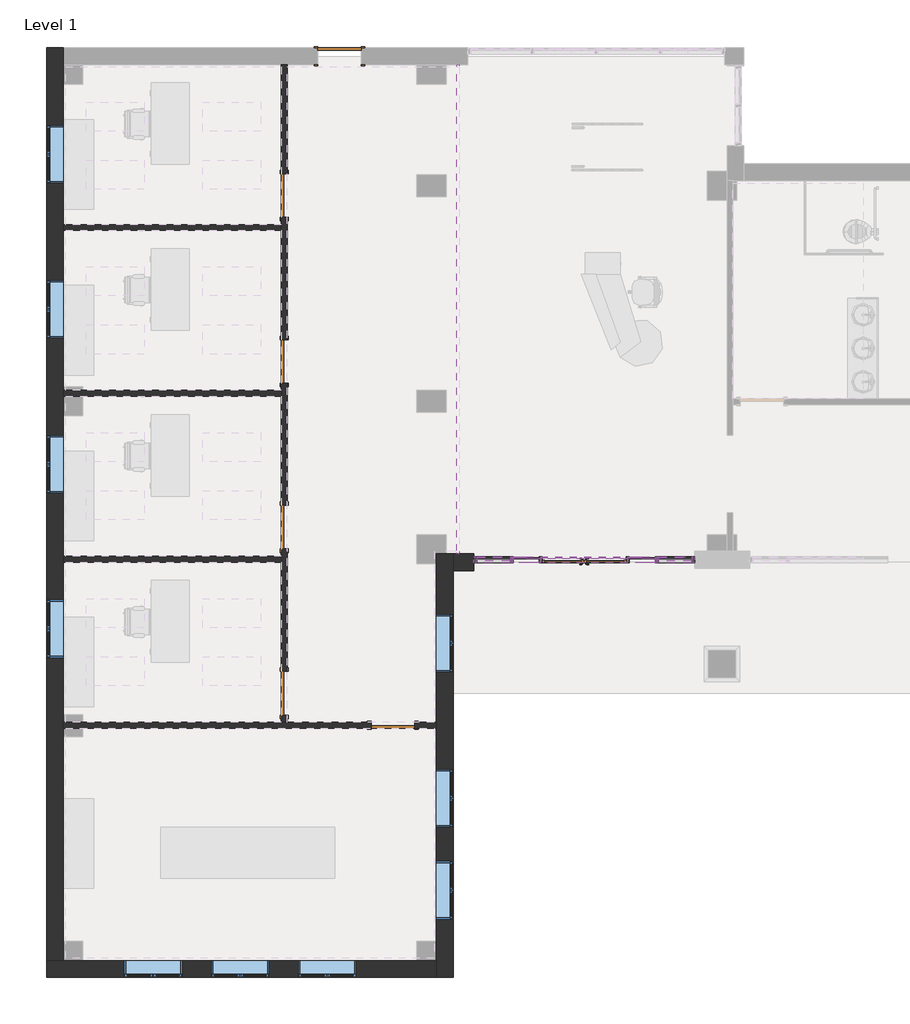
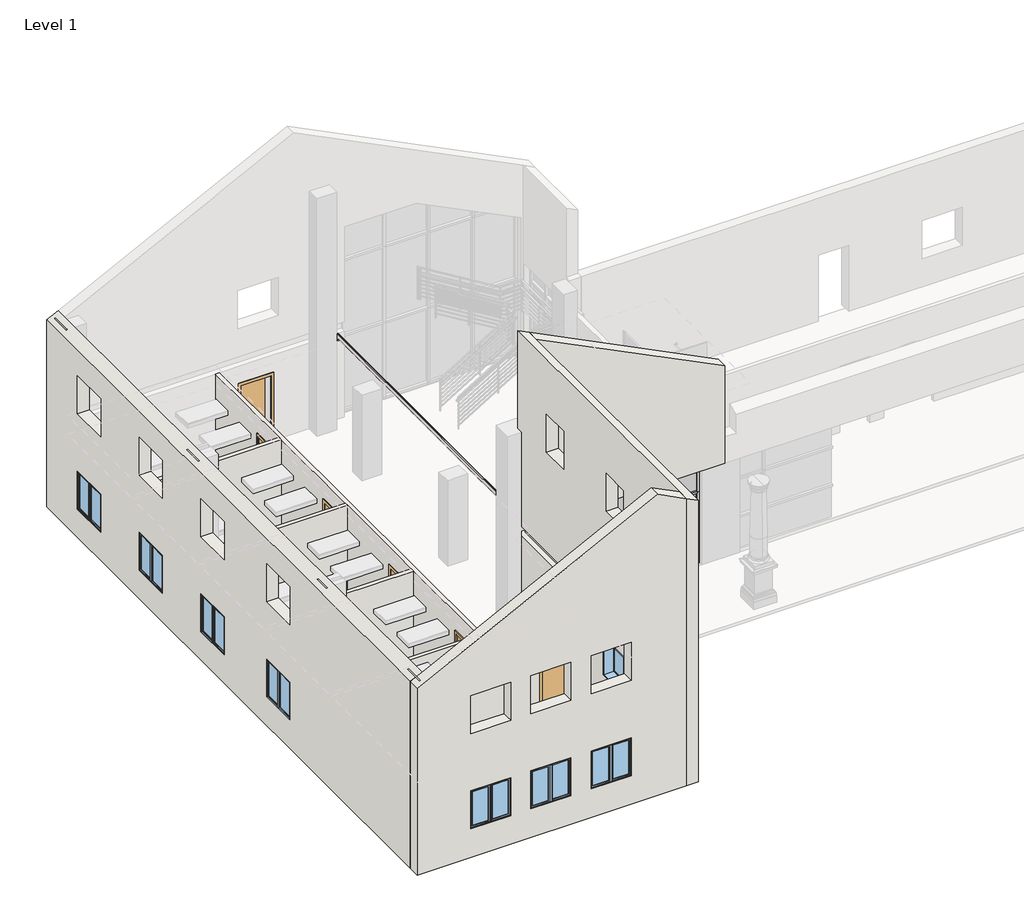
# One storey, part 1 of 8: 28 members, 10 walls, 10 windows, 9 plates, 7 doors.
"""IFC4 building model written with IfcOpenShell, lengths in millimetres."""

from ifc_helpers import new_model, si_unit, origin, origin_with_axes, place, context, project, spatial, polyline, outline, extrude, faceted_brep, transform, mapped, element, save
from components import curtain_wall_store_front_dbl_store_front_double_door_b1cda55e, door_cc5399a4, door_eb9f8b14, member_a715cb85, member_2b49869a, member_c7c5a8a0, member_f3028526, member_75074519, member_c4de40ee, member_2fae0574, member_47bfaf8a, member_13dc6413, member_4ab4c2f5, member_b5e65c95, member_b3f2e294, member_d60e8053, member_3ca69e07, member_338de68b, system_panel_glazed_53b4157c, system_panel_glazed_7b5ce646, system_panel_glazed_23a32a5b, system_panel_glazed_4b03a3f1, system_panel_glazed_2f00aa6c, system_panel_glazed_88a41a63, system_panel_solid_52285aff, system_panel_solid_6039f36e, window_75435c65

model = new_model("IFC4")

# Units and contexts
model_context = context("Model", 3, world=origin())
ifc_project = project(units=[si_unit("LENGTHUNIT", "METRE", prefix="MILLI")], contexts=[model_context])

# Site, building, storey
site = spatial("IfcSite", under=ifc_project)
building = spatial("IfcBuilding", under=site)
storey = spatial("IfcBuildingStorey", under=building, Name="Level 1", Elevation=0.0)

# Doors
placement = place(None, origin())
curtain_wall_store_front_dbl_store_front_double_door_shape = curtain_wall_store_front_dbl_store_front_double_door_b1cda55e(model_context)
element("IfcDoor", 1, ObjectType="Curtain Wall-Store Front-Dbl : Store Front Double Door", at=placement, inside=storey, context=model_context, shape_type="MappedRepresentation", body=[
    mapped(curtain_wall_store_front_dbl_store_front_double_door_shape, transform((-2655.3516552, 175.3980424, 0.0), x_axis=(1.0, 0.0, 0.0), y_axis=(0.0, 1.0, 0.0), z_axis=(0.0, 0.0, 1.0))),
])
door_shape = door_cc5399a4(model_context)
element("IfcDoor", 2, ObjectType="Single-Flush : 36\" x 84\"", at=placement, inside=storey, context=model_context, shape_type="MappedRepresentation", body=[
    mapped(door_shape, transform((-7789.3266552, 10744.9730424, 0.0), x_axis=(-1.0, 0.0, 0.0), y_axis=(0.0, -1.0, 0.0), z_axis=(0.0, 0.0, 1.0))),
])
door_2_shape = door_eb9f8b14(model_context)
element("IfcDoor", 3, ObjectType="Single-Flush : 36\" x 84\"", at=placement, inside=storey, context=model_context, shape_type="MappedRepresentation", body=[
    mapped(door_2_shape, transform((-6668.5516552, -3294.8769576, 0.0), x_axis=(1.0, 0.0, 0.0), y_axis=(0.0, 1.0, 0.0), z_axis=(0.0, 0.0, 1.0))),
])
element("IfcDoor", 4, ObjectType="Single-Flush : 36\" x 84\"", at=placement, inside=storey, context=model_context, shape_type="MappedRepresentation", body=[
    mapped(door_2_shape, transform((-8949.7891552, -2623.3644576, 0.0), x_axis=(0.0, -1.0, 0.0), y_axis=(1.0, 0.0, 0.0), z_axis=(0.0, 0.0, 1.0))),
])
element("IfcDoor", 5, ObjectType="Single-Flush : 36\" x 84\"", at=placement, inside=storey, context=model_context, shape_type="MappedRepresentation", body=[
    mapped(door_2_shape, transform((-8949.7891552, 862.7855424, 0.0), x_axis=(0.0, -1.0, 0.0), y_axis=(1.0, 0.0, 0.0), z_axis=(0.0, 0.0, 1.0))),
])
element("IfcDoor", 6, ObjectType="Single-Flush : 36\" x 84\"", at=placement, inside=storey, context=model_context, shape_type="MappedRepresentation", body=[
    mapped(door_2_shape, transform((-8949.7891552, 4339.4105424, 0.0), x_axis=(0.0, -1.0, 0.0), y_axis=(1.0, 0.0, 0.0), z_axis=(0.0, 0.0, 1.0))),
])
element("IfcDoor", 7, ObjectType="Single-Flush : 36\" x 84\"", at=placement, inside=storey, context=model_context, shape_type="MappedRepresentation", body=[
    mapped(door_2_shape, transform((-8949.7891552, 7820.7980424, 0.0), x_axis=(0.0, -1.0, 0.0), y_axis=(1.0, 0.0, 0.0), z_axis=(0.0, 0.0, 1.0))),
])

# Members
member_shape = member_a715cb85(model_context)
element("IfcMember", 8, ObjectType="Rectangular Mullion : 2.5\" x 5\" Rectangular", at=placement, inside=storey, context=model_context, shape_type="MappedRepresentation", body=[
    mapped(member_shape, transform((-4179.3516552, 175.3980424, 0.0), x_axis=(1.0, 0.0, 0.0), y_axis=(0.0, -1.0, 0.0), z_axis=(0.0, 0.0, -1.0))),
])
element("IfcMember", 9, ObjectType="Rectangular Mullion : 2.5\" x 5\" Rectangular", at=placement, inside=storey, context=model_context, shape_type="MappedRepresentation", body=[
    mapped(member_shape, transform((-1131.3516552, 175.3980424, 0.0), x_axis=(1.0, 0.0, 0.0), y_axis=(0.0, -1.0, 0.0), z_axis=(0.0, 0.0, -1.0))),
])
element("IfcMember", 10, ObjectType="Rectangular Mullion : 2.5\" x 5\" Rectangular", at=placement, inside=storey, context=model_context, shape_type="MappedRepresentation", body=[
    mapped(member_shape, transform((-369.3516552, 175.3980424, 0.0), x_axis=(1.0, 0.0, 0.0), y_axis=(0.0, -1.0, 0.0), z_axis=(0.0, 0.0, -1.0))),
])
member_2_shape = member_2b49869a(model_context)
element("IfcMember", 11, ObjectType="Rectangular Mullion : 2.5\" x 5\" Rectangular", at=placement, inside=storey, context=model_context, shape_type="MappedRepresentation", body=[
    mapped(member_2_shape, transform((-4179.3516552, 175.3980424, 1066.8), x_axis=(1.0, 0.0, 0.0), y_axis=(0.0, -1.0, 0.0), z_axis=(0.0, 0.0, -1.0))),
])
element("IfcMember", 12, ObjectType="Rectangular Mullion : 2.5\" x 5\" Rectangular", at=placement, inside=storey, context=model_context, shape_type="MappedRepresentation", body=[
    mapped(member_2_shape, transform((-1131.3516552, 175.3980424, 1066.8), x_axis=(1.0, 0.0, 0.0), y_axis=(0.0, -1.0, 0.0), z_axis=(0.0, 0.0, -1.0))),
])
element("IfcMember", 13, ObjectType="Rectangular Mullion : 2.5\" x 5\" Rectangular", at=placement, inside=storey, context=model_context, shape_type="MappedRepresentation", body=[
    mapped(member_2_shape, transform((-369.3516552, 175.3980424, 1066.8), x_axis=(1.0, 0.0, 0.0), y_axis=(0.0, -1.0, 0.0), z_axis=(0.0, 0.0, -1.0))),
])
member_3_shape = member_c7c5a8a0(model_context)
element("IfcMember", 14, ObjectType="Rectangular Mullion : 2.5\" x 5\" Rectangular", at=placement, inside=storey, context=model_context, shape_type="MappedRepresentation", body=[
    mapped(member_3_shape, transform((-401.1016552, 175.3980424, 2286.0), x_axis=(0.0, 0.0, 1.0), y_axis=(0.0, -1.0, 0.0), z_axis=(1.0, 0.0, 0.0))),
])
element("IfcMember", 15, ObjectType="Rectangular Mullion : 2.5\" x 5\" Rectangular", at=placement, inside=storey, context=model_context, shape_type="MappedRepresentation", body=[
    mapped(member_3_shape, transform((-401.1016552, 175.3980424, 1066.8), x_axis=(0.0, 0.0, 1.0), y_axis=(0.0, -1.0, 0.0), z_axis=(1.0, 0.0, 0.0))),
])
member_4_shape = member_f3028526(model_context)
element("IfcMember", 16, ObjectType="Rectangular Mullion : 2.5\" x 5\" Rectangular", at=placement, inside=storey, context=model_context, shape_type="MappedRepresentation", body=[
    mapped(member_4_shape, transform((-4211.1016552, 175.3980424, 2286.0), x_axis=(0.0, 0.0, 1.0), y_axis=(0.0, -1.0, 0.0), z_axis=(1.0, 0.0, 0.0))),
])
element("IfcMember", 17, ObjectType="Rectangular Mullion : 2.5\" x 5\" Rectangular", at=placement, inside=storey, context=model_context, shape_type="MappedRepresentation", body=[
    mapped(member_4_shape, transform((-4211.1016552, 175.3980424, 1066.8), x_axis=(0.0, 0.0, 1.0), y_axis=(0.0, -1.0, 0.0), z_axis=(1.0, 0.0, 0.0))),
])
member_5_shape = member_75074519(model_context)
element("IfcMember", 18, ObjectType="Rectangular Mullion : 2.5\" x 5\" Rectangular", at=placement, inside=storey, context=model_context, shape_type="MappedRepresentation", body=[
    mapped(member_5_shape, transform((-4968.3391552, 175.3980424, 2286.0), x_axis=(-1.0, 0.0, 0.0), y_axis=(0.0, -1.0, 0.0), z_axis=(0.0, 0.0, 1.0))),
])
member_6_shape = member_c4de40ee(model_context)
element("IfcMember", 19, ObjectType="Rectangular Mullion : 2.5\" x 5\" Rectangular", at=placement, inside=storey, context=model_context, shape_type="MappedRepresentation", body=[
    mapped(member_6_shape, transform((-4968.3391552, 175.3980424, 1066.8), x_axis=(-1.0, 0.0, 0.0), y_axis=(0.0, -1.0, 0.0), z_axis=(0.0, 0.0, 1.0))),
])
member_7_shape = member_2fae0574(model_context)
element("IfcMember", 20, ObjectType="Rectangular Mullion : 2.5\" x 5\" Rectangular", at=placement, inside=storey, context=model_context, shape_type="MappedRepresentation", body=[
    mapped(member_7_shape, transform((-1740.9516552, 175.3980424, 3060.0), x_axis=(0.0, 0.0, 1.0), y_axis=(0.0, -1.0, 0.0), z_axis=(1.0, 0.0, 0.0))),
])
member_8_shape = member_47bfaf8a(model_context)
element("IfcMember", 21, ObjectType="Rectangular Mullion : 2.5\" x 5\" Rectangular", at=placement, inside=storey, context=model_context, shape_type="MappedRepresentation", body=[
    mapped(member_8_shape, transform((-3569.7516552, 175.3980424, 3060.0), x_axis=(0.0, 0.0, 1.0), y_axis=(0.0, -1.0, 0.0), z_axis=(1.0, 0.0, 0.0))),
])
element("IfcMember", 22, ObjectType="Rectangular Mullion : 2.5\" x 5\" Rectangular", at=placement, inside=storey, context=model_context, shape_type="MappedRepresentation", body=[
    mapped(member_8_shape, transform((-1131.3516552, 175.3980424, 3060.0), x_axis=(0.0, 0.0, 1.0), y_axis=(0.0, -1.0, 0.0), z_axis=(1.0, 0.0, 0.0))),
])
member_9_shape = member_13dc6413(model_context)
element("IfcMember", 23, ObjectType="Rectangular Mullion : 2.5\" x 5\" Rectangular", at=placement, inside=storey, context=model_context, shape_type="MappedRepresentation", body=[
    mapped(member_9_shape, transform((-337.6016552, 175.3980424, 3060.0), x_axis=(0.0, 0.0, 1.0), y_axis=(0.0, -1.0, 0.0), z_axis=(1.0, 0.0, 0.0))),
])
member_10_shape = member_4ab4c2f5(model_context)
element("IfcMember", 24, ObjectType="Rectangular Mullion : 2.5\" x 5\" Rectangular", at=placement, inside=storey, context=model_context, shape_type="MappedRepresentation", body=[
    mapped(member_10_shape, transform((-4179.3516552, 175.3980424, 3060.0), x_axis=(0.0, 0.0, 1.0), y_axis=(0.0, -1.0, 0.0), z_axis=(1.0, 0.0, 0.0))),
])
element("IfcMember", 25, ObjectType="Rectangular Mullion : 2.5\" x 5\" Rectangular", at=placement, inside=storey, context=model_context, shape_type="MappedRepresentation", body=[
    mapped(member_shape, transform((-3569.7516552, 175.3980424, 0.0), x_axis=(1.0, 0.0, 0.0), y_axis=(0.0, -1.0, 0.0), z_axis=(0.0, 0.0, -1.0))),
])
element("IfcMember", 26, ObjectType="Rectangular Mullion : 2.5\" x 5\" Rectangular", at=placement, inside=storey, context=model_context, shape_type="MappedRepresentation", body=[
    mapped(member_shape, transform((-1740.9516552, 175.3980424, 0.0), x_axis=(1.0, 0.0, 0.0), y_axis=(0.0, -1.0, 0.0), z_axis=(0.0, 0.0, -1.0))),
])
member_11_shape = member_b5e65c95(model_context)
element("IfcMember", 27, ObjectType="Rectangular Mullion : 2.5\" x 5\" Rectangular", at=placement, inside=storey, context=model_context, shape_type="MappedRepresentation", body=[
    mapped(member_11_shape, transform((-3569.7516552, 175.3980424, 2286.0), x_axis=(0.0, 0.0, 1.0), y_axis=(0.0, -1.0, 0.0), z_axis=(1.0, 0.0, 0.0))),
])
member_12_shape = member_b3f2e294(model_context)
element("IfcMember", 28, ObjectType="Rectangular Mullion : 2.5\" x 5\" Rectangular", at=placement, inside=storey, context=model_context, shape_type="MappedRepresentation", body=[
    mapped(member_12_shape, transform((-3569.7516552, 175.3980424, 1066.8), x_axis=(1.0, 0.0, 0.0), y_axis=(0.0, -1.0, 0.0), z_axis=(0.0, 0.0, -1.0))),
])
element("IfcMember", 29, ObjectType="Rectangular Mullion : 2.5\" x 5\" Rectangular", at=placement, inside=storey, context=model_context, shape_type="MappedRepresentation", body=[
    mapped(member_12_shape, transform((-1740.9516552, 175.3980424, 1066.8), x_axis=(1.0, 0.0, 0.0), y_axis=(0.0, -1.0, 0.0), z_axis=(0.0, 0.0, -1.0))),
])
element("IfcMember", 30, ObjectType="Rectangular Mullion : 2.5\" x 5\" Rectangular", at=placement, inside=storey, context=model_context, shape_type="MappedRepresentation", body=[
    mapped(member_11_shape, transform((-1163.1016552, 175.3980424, 2286.0), x_axis=(0.0, 0.0, 1.0), y_axis=(0.0, -1.0, 0.0), z_axis=(1.0, 0.0, 0.0))),
])
member_13_shape = member_d60e8053(model_context)
element("IfcMember", 31, ObjectType="Rectangular Mullion : 2.5\" x 5\" Rectangular", at=placement, inside=storey, context=model_context, shape_type="MappedRepresentation", body=[
    mapped(member_13_shape, transform((-1740.9516552, 175.3980424, 2286.0), x_axis=(0.0, 0.0, 1.0), y_axis=(0.0, -1.0, 0.0), z_axis=(1.0, 0.0, 0.0))),
])
member_14_shape = member_3ca69e07(model_context)
element("IfcMember", 32, ObjectType="Rectangular Mullion : 2.5\" x 5\" Rectangular", at=placement, inside=storey, context=model_context, shape_type="MappedRepresentation", body=[
    mapped(member_14_shape, transform((-4179.3516552, 175.3980424, 2286.0), x_axis=(1.0, 0.0, 0.0), y_axis=(0.0, -1.0, 0.0), z_axis=(0.0, 0.0, -1.0))),
])
element("IfcMember", 33, ObjectType="Rectangular Mullion : 2.5\" x 5\" Rectangular", at=placement, inside=storey, context=model_context, shape_type="MappedRepresentation", body=[
    mapped(member_14_shape, transform((-1131.3516552, 175.3980424, 2286.0), x_axis=(1.0, 0.0, 0.0), y_axis=(0.0, -1.0, 0.0), z_axis=(0.0, 0.0, -1.0))),
])
element("IfcMember", 34, ObjectType="Rectangular Mullion : 2.5\" x 5\" Rectangular", at=placement, inside=storey, context=model_context, shape_type="MappedRepresentation", body=[
    mapped(member_14_shape, transform((-369.3516552, 175.3980424, 2286.0), x_axis=(1.0, 0.0, 0.0), y_axis=(0.0, -1.0, 0.0), z_axis=(0.0, 0.0, -1.0))),
])
member_15_shape = member_338de68b(model_context)
element("IfcMember", 35, ObjectType="Rectangular Mullion : 2.5\" x 5\" Rectangular", at=placement, inside=storey, context=model_context, shape_type="MappedRepresentation", body=[
    mapped(member_15_shape, transform((-4968.3391552, 175.3980424, 2996.5), x_axis=(-1.0, 0.0, 0.0), y_axis=(0.0, -1.0, 0.0), z_axis=(0.0, 0.0, 1.0))),
])

# Plates
system_panel_glazed_shape = system_panel_glazed_53b4157c(model_context)
element("IfcPlate", 36, ObjectType="System Panel : Glazed", at=placement, inside=storey, context=model_context, shape_type="MappedRepresentation", body=[
    mapped(system_panel_glazed_shape, transform((-750.3516552, 175.3980424, 0.0), x_axis=(1.0, 0.0, 0.0), y_axis=(0.0, 1.0, 0.0), z_axis=(0.0, 0.0, 1.0))),
])
system_panel_glazed_2_shape = system_panel_glazed_7b5ce646(model_context)
element("IfcPlate", 37, ObjectType="System Panel : Glazed", at=placement, inside=storey, context=model_context, shape_type="MappedRepresentation", body=[
    mapped(system_panel_glazed_2_shape, transform((-750.3516552, 175.3980424, 1098.55), x_axis=(1.0, 0.0, 0.0), y_axis=(0.0, 1.0, 0.0), z_axis=(0.0, 0.0, 1.0))),
])
system_panel_glazed_3_shape = system_panel_glazed_23a32a5b(model_context)
element("IfcPlate", 38, ObjectType="System Panel : Glazed", at=placement, inside=storey, context=model_context, shape_type="MappedRepresentation", body=[
    mapped(system_panel_glazed_3_shape, transform((-4557.9704052, 175.3980424, 0.0), x_axis=(1.0, 0.0, 0.0), y_axis=(0.0, 1.0, 0.0), z_axis=(0.0, 0.0, 1.0))),
])
system_panel_glazed_4_shape = system_panel_glazed_4b03a3f1(model_context)
element("IfcPlate", 39, ObjectType="System Panel : Glazed", at=placement, inside=storey, context=model_context, shape_type="MappedRepresentation", body=[
    mapped(system_panel_glazed_4_shape, transform((-4557.9704052, 175.3980424, 1098.55), x_axis=(1.0, 0.0, 0.0), y_axis=(0.0, 1.0, 0.0), z_axis=(0.0, 0.0, 1.0))),
])
system_panel_glazed_5_shape = system_panel_glazed_2f00aa6c(model_context)
element("IfcPlate", 40, ObjectType="System Panel : Glazed", at=placement, inside=storey, context=model_context, shape_type="MappedRepresentation", body=[
    mapped(system_panel_glazed_5_shape, transform((-3874.5516552, 175.3980424, 0.0), x_axis=(1.0, 0.0, 0.0), y_axis=(0.0, 1.0, 0.0), z_axis=(0.0, 0.0, 1.0))),
])
element("IfcPlate", 41, ObjectType="System Panel : Glazed", at=placement, inside=storey, context=model_context, shape_type="MappedRepresentation", body=[
    mapped(system_panel_glazed_5_shape, transform((-1436.1516552, 175.3980424, 0.0), x_axis=(1.0, 0.0, 0.0), y_axis=(0.0, 1.0, 0.0), z_axis=(0.0, 0.0, 1.0))),
])
system_panel_glazed_6_shape = system_panel_glazed_88a41a63(model_context)
element("IfcPlate", 42, ObjectType="System Panel : Glazed", at=placement, inside=storey, context=model_context, shape_type="MappedRepresentation", body=[
    mapped(system_panel_glazed_6_shape, transform((-2655.3516552, 175.3980424, 2317.75), x_axis=(1.0, 0.0, 0.0), y_axis=(0.0, 1.0, 0.0), z_axis=(0.0, 0.0, 1.0))),
])
system_panel_solid_shape = system_panel_solid_52285aff(model_context)
element("IfcPlate", 43, ObjectType="System Panel : Solid", at=placement, inside=storey, context=model_context, shape_type="MappedRepresentation", body=[
    mapped(system_panel_solid_shape, transform((-4557.9704052, 175.3980424, 2317.75), x_axis=(1.0, 0.0, 0.0), y_axis=(0.0, 1.0, 0.0), z_axis=(0.0, 0.0, 1.0))),
])
system_panel_solid_2_shape = system_panel_solid_6039f36e(model_context)
element("IfcPlate", 44, ObjectType="System Panel : Solid", at=placement, inside=storey, context=model_context, shape_type="MappedRepresentation", body=[
    mapped(system_panel_solid_2_shape, transform((-750.3516552, 175.3980424, 2317.75), x_axis=(1.0, 0.0, 0.0), y_axis=(0.0, 1.0, 0.0), z_axis=(0.0, 0.0, 1.0))),
])

# Walls
element("IfcWall", 45, ObjectType="Soffit - 1/2\" GWB & Metal Stud", at=placement, inside=storey, context=model_context, shape_type="Brep", body=[
    faceted_brep([(-5273.1391552, 10568.7605424, 2755.2), (-5273.1391552, 300.8105424, 2755.2), (-5273.1391552, 300.8105424, 2540.0), (-5273.1391552, 351.6105424, 2540.0), (-5273.1391552, 351.6105424, 2647.95), (-5273.1391552, 10517.9605424, 2647.95), (-5273.1391552, 10517.9605424, 2540.0), (-5273.1391552, 10568.7605424, 2540.0), (-5323.9391552, 10568.7605424, 2755.2), (-5323.9391552, 10568.7605424, 2540.0), (-5323.9391552, 10517.9605424, 2540.0), (-5323.9391552, 10517.9605424, 2647.95), (-5323.9391552, 351.6105424, 2647.95), (-5323.9391552, 351.6105424, 2540.0), (-5323.9391552, 300.8105424, 2540.0), (-5323.9391552, 300.8105424, 2755.2), (-5284.2516552, 10568.7605424, 2755.2), (-5284.2516552, 9554.527236, 2755.2), (-5284.2516552, 300.8105424, 2755.2)], [[[0, 1, 2, 3, 4, 5, 6, 7]], [[8, 9, 10, 11, 12, 13, 14, 15]], [[9, 7, 6, 10]], [[2, 14, 13, 3]], [[11, 5, 4, 12]], [[12, 4, 3, 13]], [[5, 11, 10, 6]], [[1, 0, 16, 17, 18]], [[0, 7, 9, 8, 16]], [[2, 1, 18, 15, 14]], [[16, 8, 15, 18, 17]]]),
])
element("IfcWall", 46, ObjectType="Exterior - Brick on Mtl. Stud", at=placement, inside=storey, context=model_context, shape_type="Brep", body=[
    faceted_brep([(-5754.1516552, 300.8105424, 0.0), (-5754.1516552, 97.6105424, 0.0), (-5754.1516552, -3232.9644576, 0.0), (-5754.1516552, -3356.7894576, 0.0), (-5754.1516552, -7824.0144576, 0.0), (-5754.1516552, -8233.5894576, 0.0), (-5754.1516552, -8586.0144576, 0.0), (-5754.1516552, -8586.0144576, 9230.55), (-5754.1516552, -8233.5894576, 9230.55), (-5754.1516552, 300.8105424, 9230.55), (-5754.1516552, 300.8105424, 6100.0), (-5754.1516552, 300.8105424, 3060.0), (-5754.1516552, -3232.9644576, 3060.0), (-5754.1516552, -3356.7894576, 3060.0), (-5754.1516552, -8233.5894576, 3060.0), (-5754.1516552, -8398.6894576, 3060.0), (-5754.1516552, -8398.6894576, 2755.2), (-5754.1516552, -8233.5894576, 2755.2), (-5754.1516552, -3356.7894576, 2755.2), (-5754.1516552, -3232.9644576, 2755.2), (-5754.1516552, 300.8105424, 2755.2), (-5754.1516552, -7366.8144576, 2133.6), (-5754.1516552, -7366.8144576, 914.4), (-5754.1516552, -6147.6144576, 914.4), (-5754.1516552, -6147.6144576, 2133.6), (-5754.1516552, -5436.4144576, 2133.6), (-5754.1516552, -5436.4144576, 914.4), (-5754.1516552, -4217.2144576, 914.4), (-5754.1516552, -4217.2144576, 2133.6), (-5754.1516552, -2185.2144576, 2133.6), (-5754.1516552, -2185.2144576, 914.4), (-5754.1516552, -966.0144576, 914.4), (-5754.1516552, -966.0144576, 2133.6), (-5754.1516552, -2134.4144576, 7471.6), (-5754.1516552, -2134.4144576, 6252.4), (-5754.1516552, -1220.0144576, 6252.4), (-5754.1516552, -1220.0144576, 7471.6), (-5754.1516552, -5268.1394576, 7471.6), (-5754.1516552, -5268.1394576, 6252.4), (-5754.1516552, -4353.7394576, 6252.4), (-5754.1516552, -4353.7394576, 7471.6), (-5754.1516552, -7166.7894576, 7471.6), (-5754.1516552, -7166.7894576, 6252.4), (-5754.1516552, -6252.3894576, 6252.4), (-5754.1516552, -6252.3894576, 7471.6), (-5754.1516552, -5420.5394576, 5193.6), (-5754.1516552, -5420.5394576, 3974.4), (-5754.1516552, -4201.3394576, 3974.4), (-5754.1516552, -4201.3394576, 5193.6), (-5754.1516552, -7319.1894576, 5193.6), (-5754.1516552, -7319.1894576, 3974.4), (-5754.1516552, -6099.9894576, 3974.4), (-5754.1516552, -6099.9894576, 5193.6), (-5401.7266552, -8586.0144576, 0.0), (-5401.7266552, -51.6144576, 0.0), (-5401.7266552, 300.8105424, 0.0), (-5401.7266552, 300.8105424, 2755.2), (-5401.7266552, 175.3980424, 2755.2), (-5401.7266552, 175.3980424, 3060.0), (-5401.7266552, 300.8105424, 3060.0), (-5401.7266552, 300.8105424, 9054.3375), (-5401.7266552, -51.6144576, 9054.3375), (-5401.7266552, -8586.0144576, 9054.3375), (-5401.7266552, -7366.8144576, 914.4), (-5401.7266552, -7366.8144576, 2133.6), (-5401.7266552, -6147.6144576, 2133.6), (-5401.7266552, -6147.6144576, 914.4), (-5401.7266552, -5436.4144576, 914.4), (-5401.7266552, -5436.4144576, 2133.6), (-5401.7266552, -4217.2144576, 2133.6), (-5401.7266552, -4217.2144576, 914.4), (-5401.7266552, -2185.2144576, 914.4), (-5401.7266552, -2185.2144576, 2133.6), (-5401.7266552, -966.0144576, 2133.6), (-5401.7266552, -966.0144576, 914.4), (-5401.7266552, -2134.4144576, 6252.4), (-5401.7266552, -2134.4144576, 7471.6), (-5401.7266552, -1220.0144576, 7471.6), (-5401.7266552, -1220.0144576, 6252.4), (-5401.7266552, -5268.1394576, 6252.4), (-5401.7266552, -5268.1394576, 7471.6), (-5401.7266552, -4353.7394576, 7471.6), (-5401.7266552, -4353.7394576, 6252.4), (-5401.7266552, -7166.7894576, 6252.4), (-5401.7266552, -7166.7894576, 7471.6), (-5401.7266552, -6252.3894576, 7471.6), (-5401.7266552, -6252.3894576, 6252.4), (-5401.7266552, -5420.5394576, 3974.4), (-5401.7266552, -5420.5394576, 5193.6), (-5401.7266552, -4201.3394576, 5193.6), (-5401.7266552, -4201.3394576, 3974.4), (-5401.7266552, -7319.1894576, 3974.4), (-5401.7266552, -7319.1894576, 5193.6), (-5401.7266552, -6099.9894576, 5193.6), (-5401.7266552, -6099.9894576, 3974.4), (-5554.1266552, 300.8105424, 0.0), (-5589.0516552, -8398.6894576, 2755.2), (-5589.0516552, 175.3980424, 2755.2), (-5589.0516552, 175.3980424, 3060.0), (-5589.0516552, -8398.6894576, 3060.0)], [[[0, 1, 2, 3, 4, 5, 6, 7, 8, 9, 10, 11, 12, 13, 14, 15, 16, 17, 18, 19, 20], [21, 22, 23, 24], [25, 26, 27, 28], [29, 30, 31, 32], [33, 34, 35, 36], [37, 38, 39, 40], [41, 42, 43, 44], [45, 46, 47, 48], [49, 50, 51, 52]], [[53, 54, 55, 56, 57, 58, 59, 60, 61, 62], [63, 64, 65, 66], [67, 68, 69, 70], [71, 72, 73, 74], [75, 76, 77, 78], [79, 80, 81, 82], [83, 84, 85, 86], [87, 88, 89, 90], [91, 92, 93, 94]], [[6, 5, 4, 3, 2, 1, 0, 95, 55, 54, 53]], [[22, 21, 64, 63]], [[23, 22, 63, 66]], [[24, 23, 66, 65]], [[21, 24, 65, 64]], [[26, 25, 68, 67]], [[27, 26, 67, 70]], [[28, 27, 70, 69]], [[25, 28, 69, 68]], [[30, 29, 72, 71]], [[31, 30, 71, 74]], [[32, 31, 74, 73]], [[29, 32, 73, 72]], [[9, 8, 7, 62, 61, 60]], [[34, 33, 76, 75]], [[35, 34, 75, 78]], [[36, 35, 78, 77]], [[33, 36, 77, 76]], [[38, 37, 80, 79]], [[39, 38, 79, 82]], [[40, 39, 82, 81]], [[37, 40, 81, 80]], [[42, 41, 84, 83]], [[43, 42, 83, 86]], [[44, 43, 86, 85]], [[41, 44, 85, 84]], [[46, 45, 88, 87]], [[47, 46, 87, 90]], [[48, 47, 90, 89]], [[45, 48, 89, 88]], [[50, 49, 92, 91]], [[51, 50, 91, 94]], [[52, 51, 94, 93]], [[49, 52, 93, 92]], [[96, 97, 57, 56, 20, 19, 18, 17, 16]], [[98, 99, 15, 14, 13, 12, 11, 59, 58]], [[97, 96, 99, 98]], [[99, 96, 16, 15]], [[9, 60, 59, 11, 10]], [[55, 95, 0, 20, 56]], [[7, 6, 53, 62]], [[97, 98, 58, 57]]]),
])
element("IfcWall", 47, ObjectType="Exterior - Brick on Mtl. Stud", at=placement, inside=storey, context=model_context, shape_type="Brep", body=[
    faceted_brep([(-5754.1516552, -8233.5894576, 0.0), (-6163.7266552, -8233.5894576, 0.0), (-13174.1266552, -8233.5894576, 0.0), (-13583.7016552, -8233.5894576, 0.0), (-13936.1266552, -8233.5894576, 0.0), (-13936.1266552, -8233.5894576, 6006.3375), (-13583.7016552, -8233.5894576, 6182.55), (-6620.9266552, -8233.5894576, 9663.9375), (-5754.1516552, -8233.5894576, 9230.55), (-5754.1516552, -8233.5894576, 6100.0), (-5754.1516552, -8233.5894576, 3060.0), (-13596.4016552, -8233.5894576, 3060.0), (-13596.4016552, -8233.5894576, 2755.2), (-5754.1516552, -8233.5894576, 2755.2), (-12310.5266552, -8233.5894576, 2133.6), (-12310.5266552, -8233.5894576, 914.4), (-11091.3266552, -8233.5894576, 914.4), (-11091.3266552, -8233.5894576, 2133.6), (-10481.7266552, -8233.5894576, 2133.6), (-10481.7266552, -8233.5894576, 914.4), (-9262.5266552, -8233.5894576, 914.4), (-9262.5266552, -8233.5894576, 2133.6), (-8652.9266552, -8233.5894576, 2133.6), (-8652.9266552, -8233.5894576, 914.4), (-7433.7266552, -8233.5894576, 914.4), (-7433.7266552, -8233.5894576, 2133.6), (-8652.9266552, -8233.5894576, 5193.6), (-8652.9266552, -8233.5894576, 3974.4), (-7433.7266552, -8233.5894576, 3974.4), (-7433.7266552, -8233.5894576, 5193.6), (-10481.7266552, -8233.5894576, 5193.6), (-10481.7266552, -8233.5894576, 3974.4), (-9262.5266552, -8233.5894576, 3974.4), (-9262.5266552, -8233.5894576, 5193.6), (-12310.5266552, -8233.5894576, 5193.6), (-12310.5266552, -8233.5894576, 3974.4), (-11091.3266552, -8233.5894576, 3974.4), (-11091.3266552, -8233.5894576, 5193.6), (-13936.1266552, -8586.0144576, 0.0), (-5754.1516552, -8586.0144576, 0.0), (-5754.1516552, -8586.0144576, 9230.55), (-6620.9266552, -8586.0144576, 9663.9375), (-13936.1266552, -8586.0144576, 6006.3375), (-12310.5266552, -8586.0144576, 914.4), (-12310.5266552, -8586.0144576, 2133.6), (-11091.3266552, -8586.0144576, 2133.6), (-11091.3266552, -8586.0144576, 914.4), (-10481.7266552, -8586.0144576, 914.4), (-10481.7266552, -8586.0144576, 2133.6), (-9262.5266552, -8586.0144576, 2133.6), (-9262.5266552, -8586.0144576, 914.4), (-8652.9266552, -8586.0144576, 914.4), (-8652.9266552, -8586.0144576, 2133.6), (-7433.7266552, -8586.0144576, 2133.6), (-7433.7266552, -8586.0144576, 914.4), (-8652.9266552, -8586.0144576, 3974.4), (-8652.9266552, -8586.0144576, 5193.6), (-7433.7266552, -8586.0144576, 5193.6), (-7433.7266552, -8586.0144576, 3974.4), (-10481.7266552, -8586.0144576, 3974.4), (-10481.7266552, -8586.0144576, 5193.6), (-9262.5266552, -8586.0144576, 5193.6), (-9262.5266552, -8586.0144576, 3974.4), (-12310.5266552, -8586.0144576, 3974.4), (-12310.5266552, -8586.0144576, 5193.6), (-11091.3266552, -8586.0144576, 5193.6), (-11091.3266552, -8586.0144576, 3974.4), (-13596.4016552, -8398.6894576, 2755.2), (-5754.1516552, -8398.6894576, 2755.2), (-5754.1516552, -8398.6894576, 3060.0), (-13596.4016552, -8398.6894576, 3060.0)], [[[0, 1, 2, 3, 4, 5, 6, 7, 8, 9, 10, 11, 12, 13], [14, 15, 16, 17], [18, 19, 20, 21], [22, 23, 24, 25], [26, 27, 28, 29], [30, 31, 32, 33], [34, 35, 36, 37]], [[38, 39, 40, 41, 42], [43, 44, 45, 46], [47, 48, 49, 50], [51, 52, 53, 54], [55, 56, 57, 58], [59, 60, 61, 62], [63, 64, 65, 66]], [[4, 3, 2, 1, 0, 39, 38]], [[15, 14, 44, 43]], [[16, 15, 43, 46]], [[17, 16, 46, 45]], [[14, 17, 45, 44]], [[19, 18, 48, 47]], [[20, 19, 47, 50]], [[21, 20, 50, 49]], [[18, 21, 49, 48]], [[23, 22, 52, 51]], [[24, 23, 51, 54]], [[25, 24, 54, 53]], [[22, 25, 53, 52]], [[8, 7, 41, 40]], [[7, 6, 5, 42, 41]], [[27, 26, 56, 55]], [[28, 27, 55, 58]], [[29, 28, 58, 57]], [[26, 29, 57, 56]], [[31, 30, 60, 59]], [[32, 31, 59, 62]], [[33, 32, 62, 61]], [[30, 33, 61, 60]], [[35, 34, 64, 63]], [[36, 35, 63, 66]], [[37, 36, 66, 65]], [[34, 37, 65, 64]], [[12, 67, 68, 13]], [[69, 70, 11, 10]], [[67, 70, 69, 68]], [[70, 67, 12, 11]], [[5, 4, 38, 42]], [[8, 40, 39, 0, 13, 68, 69, 10, 9]]]),
])
element("IfcWall", 48, ObjectType="Exterior - Brick on Mtl. Stud", at=placement, inside=storey, context=model_context, shape_type="Brep", body=[
    faceted_brep([(-13583.7016552, -8233.5894576, 0.0), (-13583.7016552, -7824.0144576, 0.0), (-13583.7016552, -3531.4144576, 0.0), (-13583.7016552, -3356.7894576, 0.0), (-13583.7016552, -3232.9644576, 0.0), (-13583.7016552, -3074.2144576, 0.0), (-13583.7016552, 124.5980424, 0.0), (-13583.7016552, 248.4230424, 0.0), (-13583.7016552, 3199.5855424, 0.0), (-13583.7016552, 3605.9855424, 0.0), (-13583.7016552, 3729.8105424, 0.0), (-13583.7016552, 3809.1855424, 0.0), (-13583.7016552, 7087.3730424, 0.0), (-13583.7016552, 7211.1980424, 0.0), (-13583.7016552, 10156.0105424, 0.0), (-13583.7016552, 10568.7605424, 0.0), (-13583.7016552, 10921.1855424, 0.0), (-13583.7016552, 10921.1855424, 6182.55), (-13583.7016552, 10568.7605424, 6182.55), (-13583.7016552, -8233.5894576, 6182.55), (-13583.7016552, -8233.5894576, 6100.0), (-13583.7016552, -8233.5894576, 3060.0), (-13583.7016552, -3356.7894576, 3060.0), (-13583.7016552, -3232.9644576, 3060.0), (-13583.7016552, 124.5980424, 3060.0), (-13583.7016552, 248.4230424, 3060.0), (-13583.7016552, 3605.9855424, 3060.0), (-13583.7016552, 3729.8105424, 3060.0), (-13583.7016552, 7087.3730424, 3060.0), (-13583.7016552, 7211.1980424, 3060.0), (-13583.7016552, 10733.8605424, 3060.0), (-13583.7016552, 10733.8605424, 2755.2), (-13583.7016552, 7211.1980424, 2755.2), (-13583.7016552, 7087.3730424, 2755.2), (-13583.7016552, 3729.8105424, 2755.2), (-13583.7016552, 3605.9855424, 2755.2), (-13583.7016552, 248.4230424, 2755.2), (-13583.7016552, 124.5980424, 2755.2), (-13583.7016552, -3232.9644576, 2755.2), (-13583.7016552, -3356.7894576, 2755.2), (-13583.7016552, -8233.5894576, 2755.2), (-13583.7016552, -661.2144576, 2133.6), (-13583.7016552, -661.2144576, 914.4), (-13583.7016552, -1880.4144576, 914.4), (-13583.7016552, -1880.4144576, 2133.6), (-13583.7016552, 2793.1855424, 2133.6), (-13583.7016552, 2793.1855424, 914.4), (-13583.7016552, 1573.9855424, 914.4), (-13583.7016552, 1573.9855424, 2133.6), (-13583.7016552, 6044.3855424, 2133.6), (-13583.7016552, 6044.3855424, 914.4), (-13583.7016552, 4825.1855424, 914.4), (-13583.7016552, 4825.1855424, 2133.6), (-13583.7016552, 9295.5855424, 2133.6), (-13583.7016552, 9295.5855424, 914.4), (-13583.7016552, 8076.3855424, 914.4), (-13583.7016552, 8076.3855424, 2133.6), (-13583.7016552, 9295.5855424, 5193.6), (-13583.7016552, 9295.5855424, 3974.4), (-13583.7016552, 8076.3855424, 3974.4), (-13583.7016552, 8076.3855424, 5193.6), (-13583.7016552, 6044.3855424, 5193.6), (-13583.7016552, 6044.3855424, 3974.4), (-13583.7016552, 4825.1855424, 3974.4), (-13583.7016552, 4825.1855424, 5193.6), (-13583.7016552, 2793.1855424, 5193.6), (-13583.7016552, 2793.1855424, 3974.4), (-13583.7016552, 1573.9855424, 3974.4), (-13583.7016552, 1573.9855424, 5193.6), (-13583.7016552, -661.2144576, 5193.6), (-13583.7016552, -661.2144576, 3974.4), (-13583.7016552, -1880.4144576, 3974.4), (-13583.7016552, -1880.4144576, 5193.6), (-13936.1266552, 10921.1855424, 0.0), (-13936.1266552, -8233.5894576, 0.0), (-13936.1266552, -8233.5894576, 6006.3375), (-13936.1266552, 10921.1855424, 6006.3375), (-13936.1266552, -661.2144576, 914.4), (-13936.1266552, -661.2144576, 2133.6), (-13936.1266552, -1880.4144576, 2133.6), (-13936.1266552, -1880.4144576, 914.4), (-13936.1266552, 2793.1855424, 914.4), (-13936.1266552, 2793.1855424, 2133.6), (-13936.1266552, 1573.9855424, 2133.6), (-13936.1266552, 1573.9855424, 914.4), (-13936.1266552, 6044.3855424, 914.4), (-13936.1266552, 6044.3855424, 2133.6), (-13936.1266552, 4825.1855424, 2133.6), (-13936.1266552, 4825.1855424, 914.4), (-13936.1266552, 9295.5855424, 914.4), (-13936.1266552, 9295.5855424, 2133.6), (-13936.1266552, 8076.3855424, 2133.6), (-13936.1266552, 8076.3855424, 914.4), (-13936.1266552, 9295.5855424, 3974.4), (-13936.1266552, 9295.5855424, 5193.6), (-13936.1266552, 8076.3855424, 5193.6), (-13936.1266552, 8076.3855424, 3974.4), (-13936.1266552, 6044.3855424, 3974.4), (-13936.1266552, 6044.3855424, 5193.6), (-13936.1266552, 4825.1855424, 5193.6), (-13936.1266552, 4825.1855424, 3974.4), (-13936.1266552, 2793.1855424, 3974.4), (-13936.1266552, 2793.1855424, 5193.6), (-13936.1266552, 1573.9855424, 5193.6), (-13936.1266552, 1573.9855424, 3974.4), (-13936.1266552, -661.2144576, 3974.4), (-13936.1266552, -661.2144576, 5193.6), (-13936.1266552, -1880.4144576, 5193.6), (-13936.1266552, -1880.4144576, 3974.4), (-13596.4016552, 10733.8605424, 2755.2), (-13596.4016552, -8233.5894576, 2755.2), (-13596.4016552, 10733.8605424, 3060.0), (-13596.4016552, -8233.5894576, 3060.0)], [[[0, 1, 2, 3, 4, 5, 6, 7, 8, 9, 10, 11, 12, 13, 14, 15, 16, 17, 18, 19, 20, 21, 22, 23, 24, 25, 26, 27, 28, 29, 30, 31, 32, 33, 34, 35, 36, 37, 38, 39, 40], [41, 42, 43, 44], [45, 46, 47, 48], [49, 50, 51, 52], [53, 54, 55, 56], [57, 58, 59, 60], [61, 62, 63, 64], [65, 66, 67, 68], [69, 70, 71, 72]], [[73, 74, 75, 76], [77, 78, 79, 80], [81, 82, 83, 84], [85, 86, 87, 88], [89, 90, 91, 92], [93, 94, 95, 96], [97, 98, 99, 100], [101, 102, 103, 104], [105, 106, 107, 108]], [[16, 15, 14, 13, 12, 11, 10, 9, 8, 7, 6, 5, 4, 3, 2, 1, 0, 74, 73]], [[42, 41, 78, 77]], [[43, 42, 77, 80]], [[44, 43, 80, 79]], [[41, 44, 79, 78]], [[46, 45, 82, 81]], [[47, 46, 81, 84]], [[48, 47, 84, 83]], [[45, 48, 83, 82]], [[50, 49, 86, 85]], [[51, 50, 85, 88]], [[52, 51, 88, 87]], [[49, 52, 87, 86]], [[54, 53, 90, 89]], [[55, 54, 89, 92]], [[56, 55, 92, 91]], [[53, 56, 91, 90]], [[19, 18, 17, 76, 75]], [[58, 57, 94, 93]], [[59, 58, 93, 96]], [[60, 59, 96, 95]], [[57, 60, 95, 94]], [[62, 61, 98, 97]], [[63, 62, 97, 100]], [[64, 63, 100, 99]], [[61, 64, 99, 98]], [[66, 65, 102, 101]], [[67, 66, 101, 104]], [[68, 67, 104, 103]], [[65, 68, 103, 102]], [[70, 69, 106, 105]], [[71, 70, 105, 108]], [[72, 71, 108, 107]], [[69, 72, 107, 106]], [[109, 110, 40, 39, 38, 37, 36, 35, 34, 33, 32, 31]], [[111, 30, 29, 28, 27, 26, 25, 24, 23, 22, 21, 112]], [[111, 109, 31, 30]], [[109, 111, 112, 110]], [[17, 16, 73, 76]], [[75, 74, 0, 40, 110, 112, 21, 20, 19]]]),
])
element("IfcWall", 49, ObjectType="Exterior - Brick on Mtl. Stud", at=placement, inside=storey, context=model_context, shape_type="Brep", body=[
    faceted_brep([(-5401.7266552, 300.8105424, 9054.3375), (341.8483448, 300.8105424, 6182.55), (341.8483448, 300.8105424, 3900.0), (341.8483448, 300.8105424, 3060.0), (-4968.3391552, 300.8105424, 3060.0), (-4968.3391552, 300.8105424, 0.0), (-5401.7266552, 300.8105424, 0.0), (341.8483448, -51.6144576, 6182.55), (-5401.7266552, -51.6144576, 9054.3375), (-5401.7266552, -51.6144576, 0.0), (-4968.3391552, -51.6144576, 0.0), (-4968.3391552, -51.6144576, 3060.0), (341.8483448, -51.6144576, 3060.0), (341.8483448, -51.6144576, 3900.0), (341.8483448, -51.6144576, 4627.075)], [[[0, 1, 2, 3, 4, 5, 6]], [[7, 8, 9, 10, 11, 12, 13, 14]], [[9, 6, 5, 10]], [[1, 0, 8, 7]], [[0, 6, 9, 8]], [[3, 2, 1, 7, 14, 13, 12]], [[4, 11, 10, 5]], [[11, 4, 3, 12]]]),
])
element("IfcWall", 50, ObjectType="Interior - 4 7/8\" Partition (1-hr)", at=placement, inside=storey, context=model_context, shape_type="Brep", body=[
    faceted_brep([(-8887.8766552, 4796.6105424, 0.0), (-8887.8766552, 7363.5980424, 0.0), (-8887.8766552, 7363.5980424, 2133.6), (-8887.8766552, 8277.9980424, 2133.6), (-8887.8766552, 8277.9980424, 0.0), (-8887.8766552, 10568.7605424, 0.0), (-8887.8766552, 10568.7605424, 2755.2), (-8887.8766552, -3232.9644576, 2755.2), (-8887.8766552, -3232.9644576, 0.0), (-8887.8766552, -3080.5644576, 0.0), (-8887.8766552, -3080.5644576, 2133.6), (-8887.8766552, -2166.1644576, 2133.6), (-8887.8766552, -2166.1644576, 0.0), (-8887.8766552, 405.5855424, 0.0), (-8887.8766552, 405.5855424, 2133.6), (-8887.8766552, 1319.9855424, 2133.6), (-8887.8766552, 1319.9855424, 0.0), (-8887.8766552, 3882.2105424, 0.0), (-8887.8766552, 3882.2105424, 2133.6), (-8887.8766552, 4796.6105424, 2133.6), (-9011.7016552, 7363.5980424, 2133.6), (-9011.7016552, 7363.5980424, 0.0), (-9011.7016552, 7211.1980424, 0.0), (-9011.7016552, 7087.3730424, 0.0), (-9011.7016552, 4796.6105424, 0.0), (-9011.7016552, 4796.6105424, 2133.6), (-9011.7016552, 3882.2105424, 2133.6), (-9011.7016552, 3882.2105424, 0.0), (-9011.7016552, 3729.8105424, 0.0), (-9011.7016552, 3605.9855424, 0.0), (-9011.7016552, 1319.9855424, 0.0), (-9011.7016552, 1319.9855424, 2133.6), (-9011.7016552, 405.5855424, 2133.6), (-9011.7016552, 405.5855424, 0.0), (-9011.7016552, 248.4230424, 0.0), (-9011.7016552, 124.5980424, 0.0), (-9011.7016552, -2166.1644576, 0.0), (-9011.7016552, -2166.1644576, 2133.6), (-9011.7016552, -3080.5644576, 2133.6), (-9011.7016552, -3080.5644576, 0.0), (-9011.7016552, -3232.9644576, 0.0), (-9011.7016552, -3232.9644576, 2755.2), (-9011.7016552, 124.5980424, 2755.2), (-9011.7016552, 248.4230424, 2755.2), (-9011.7016552, 3605.9855424, 2755.2), (-9011.7016552, 3729.8105424, 2755.2), (-9011.7016552, 7087.3730424, 2755.2), (-9011.7016552, 7211.1980424, 2755.2), (-9011.7016552, 10568.7605424, 2755.2), (-9011.7016552, 10568.7605424, 0.0), (-9011.7016552, 8277.9980424, 0.0), (-9011.7016552, 8277.9980424, 2133.6)], [[[0, 1, 2, 3, 4, 5, 6, 7, 8, 9, 10, 11, 12, 13, 14, 15, 16, 17, 18, 19]], [[20, 21, 22, 23, 24, 25, 26, 27, 28, 29, 30, 31, 32, 33, 34, 35, 36, 37, 38, 39, 40, 41, 42, 43, 44, 45, 46, 47, 48, 49, 50, 51]], [[40, 39, 9, 8]], [[36, 35, 34, 33, 13, 12]], [[30, 29, 28, 27, 17, 16]], [[50, 49, 5, 4]], [[24, 23, 22, 21, 1, 0]], [[8, 7, 41, 40]], [[10, 9, 39, 38]], [[11, 10, 38, 37]], [[12, 11, 37, 36]], [[14, 13, 33, 32]], [[15, 14, 32, 31]], [[16, 15, 31, 30]], [[18, 17, 27, 26]], [[19, 18, 26, 25]], [[0, 19, 25, 24]], [[2, 1, 21, 20]], [[3, 2, 20, 51]], [[4, 3, 51, 50]], [[7, 6, 48, 47, 46, 45, 44, 43, 42, 41]], [[6, 5, 49, 48]]]),
])
element("IfcWall", 51, ObjectType="Interior - 4 7/8\" Partition (1-hr)", at=placement, inside=storey, context=model_context, shape_type="Brep", body=[
    faceted_brep([(-6211.3516552, -3356.7894576, 2133.6), (-6211.3516552, -3356.7894576, 0.0), (-5754.1516552, -3356.7894576, 0.0), (-5754.1516552, -3356.7894576, 2755.2), (-13174.1266552, -3356.7894576, 2755.2), (-13583.7016552, -3356.7894576, 2755.2), (-13583.7016552, -3356.7894576, 0.0), (-13174.1266552, -3356.7894576, 0.0), (-7125.7516552, -3356.7894576, 0.0), (-7125.7516552, -3356.7894576, 2133.6), (-5754.1516552, -3232.9644576, 0.0), (-6211.3516552, -3232.9644576, 0.0), (-6211.3516552, -3232.9644576, 2133.6), (-7125.7516552, -3232.9644576, 2133.6), (-7125.7516552, -3232.9644576, 0.0), (-8887.8766552, -3232.9644576, 0.0), (-9011.7016552, -3232.9644576, 0.0), (-13174.1266552, -3232.9644576, 0.0), (-13583.7016552, -3232.9644576, 0.0), (-13583.7016552, -3232.9644576, 2755.2), (-13174.1266552, -3232.9644576, 2755.2), (-9011.7016552, -3232.9644576, 2755.2), (-8887.8766552, -3232.9644576, 2755.2), (-5754.1516552, -3232.9644576, 2755.2)], [[[0, 1, 2, 3, 4, 5, 6, 7, 8, 9]], [[10, 11, 12, 13, 14, 15, 16, 17, 18, 19, 20, 21, 22, 23]], [[2, 1, 11, 10]], [[8, 7, 6, 18, 17, 16, 15, 14]], [[12, 11, 1, 0]], [[13, 12, 0, 9]], [[14, 13, 9, 8]], [[5, 4, 3, 23, 22, 21, 20, 19]], [[3, 2, 10, 23]], [[6, 5, 19, 18]]]),
])
element("IfcWall", 52, ObjectType="Interior - 4 7/8\" Partition (1-hr)", at=placement, inside=storey, context=model_context, shape_type="SweptSolid", body=[
    extrude(outline(polyline([(-9011.7016552, 124.5980424), (-13583.7016552, 124.5980424), (-13583.7016552, 248.4230424), (-9011.7016552, 248.4230424), (-9011.7016552, 124.5980424)])), origin_with_axes(), (0.0, 0.0, 1.0), 2755.2),
])
element("IfcWall", 53, ObjectType="Interior - 4 7/8\" Partition (1-hr)", at=placement, inside=storey, context=model_context, shape_type="Brep", body=[
    faceted_brep([(-13583.7016552, 3605.9855424, 0.0), (-13174.1266552, 3605.9855424, 0.0), (-9011.7016552, 3605.9855424, 0.0), (-9011.7016552, 3605.9855424, 2755.2), (-13174.1266552, 3605.9855424, 2755.2), (-13583.7016552, 3605.9855424, 2755.2), (-13583.7016552, 3729.8105424, 0.0), (-13583.7016552, 3729.8105424, 2755.2), (-13174.1266552, 3729.8105424, 2755.2), (-9011.7016552, 3729.8105424, 2755.2), (-9011.7016552, 3729.8105424, 0.0), (-13174.1266552, 3729.8105424, 0.0)], [[[0, 1, 2, 3, 4, 5]], [[6, 7, 8, 9, 10, 11]], [[2, 1, 0, 6, 11, 10]], [[3, 2, 10, 9]], [[5, 4, 3, 9, 8, 7]], [[0, 5, 7, 6]]]),
])
element("IfcWall", 54, ObjectType="Interior - 4 7/8\" Partition (1-hr)", at=placement, inside=storey, context=model_context, shape_type="SweptSolid", body=[
    extrude(outline(polyline([(-9011.7016552, 7087.3730424), (-13583.7016552, 7087.3730424), (-13583.7016552, 7211.1980424), (-9011.7016552, 7211.1980424), (-9011.7016552, 7087.3730424)])), origin_with_axes(), (0.0, 0.0, 1.0), 2755.2),
])

# Windows
window_shape = window_75435c65(model_context)
element("IfcWindow", 55, ObjectType="Casement Double : 48\" x 48\"", at=placement, inside=storey, context=model_context, shape_type="MappedRepresentation", body=[
    mapped(window_shape, transform((-13740.8641552, -1270.8144576, 0.0), x_axis=(0.0, 1.0, 0.0), y_axis=(-1.0, 0.0, 0.0), z_axis=(0.0, 0.0, 1.0))),
])
element("IfcWindow", 56, ObjectType="Casement Double : 48\" x 48\"", at=placement, inside=storey, context=model_context, shape_type="MappedRepresentation", body=[
    mapped(window_shape, transform((-13740.8641552, 2183.5855424, 0.0), x_axis=(0.0, 1.0, 0.0), y_axis=(-1.0, 0.0, 0.0), z_axis=(0.0, 0.0, 1.0))),
])
element("IfcWindow", 57, ObjectType="Casement Double : 48\" x 48\"", at=placement, inside=storey, context=model_context, shape_type="MappedRepresentation", body=[
    mapped(window_shape, transform((-13740.8641552, 5434.7855424, 0.0), x_axis=(0.0, 1.0, 0.0), y_axis=(-1.0, 0.0, 0.0), z_axis=(0.0, 0.0, 1.0))),
])
element("IfcWindow", 58, ObjectType="Casement Double : 48\" x 48\"", at=placement, inside=storey, context=model_context, shape_type="MappedRepresentation", body=[
    mapped(window_shape, transform((-13740.8641552, 8685.9855424, 0.0), x_axis=(0.0, 1.0, 0.0), y_axis=(-1.0, 0.0, 0.0), z_axis=(0.0, 0.0, 1.0))),
])
element("IfcWindow", 59, ObjectType="Casement Double : 48\" x 48\"", at=placement, inside=storey, context=model_context, shape_type="MappedRepresentation", body=[
    mapped(window_shape, transform((-11700.9266552, -8390.7519576, 0.0), x_axis=(-1.0, 0.0, 0.0), y_axis=(0.0, -1.0, 0.0), z_axis=(0.0, 0.0, 1.0))),
])
element("IfcWindow", 60, ObjectType="Casement Double : 48\" x 48\"", at=placement, inside=storey, context=model_context, shape_type="MappedRepresentation", body=[
    mapped(window_shape, transform((-9872.1266552, -8390.7519576, 0.0), x_axis=(-1.0, 0.0, 0.0), y_axis=(0.0, -1.0, 0.0), z_axis=(0.0, 0.0, 1.0))),
])
element("IfcWindow", 61, ObjectType="Casement Double : 48\" x 48\"", at=placement, inside=storey, context=model_context, shape_type="MappedRepresentation", body=[
    mapped(window_shape, transform((-8043.3266552, -8390.7519576, 0.0), x_axis=(-1.0, 0.0, 0.0), y_axis=(0.0, -1.0, 0.0), z_axis=(0.0, 0.0, 1.0))),
])
element("IfcWindow", 62, ObjectType="Casement Double : 48\" x 48\"", at=placement, inside=storey, context=model_context, shape_type="MappedRepresentation", body=[
    mapped(window_shape, transform((-5596.9891552, -6757.2144576, 0.0), x_axis=(0.0, -1.0, 0.0), y_axis=(1.0, 0.0, 0.0), z_axis=(0.0, 0.0, 1.0))),
])
element("IfcWindow", 63, ObjectType="Casement Double : 48\" x 48\"", at=placement, inside=storey, context=model_context, shape_type="MappedRepresentation", body=[
    mapped(window_shape, transform((-5596.9891552, -4826.8144576, 0.0), x_axis=(0.0, -1.0, 0.0), y_axis=(1.0, 0.0, 0.0), z_axis=(0.0, 0.0, 1.0))),
])
element("IfcWindow", 64, ObjectType="Casement Double : 48\" x 48\"", at=placement, inside=storey, context=model_context, shape_type="MappedRepresentation", body=[
    mapped(window_shape, transform((-5596.9891552, -1575.6144576, 0.0), x_axis=(0.0, -1.0, 0.0), y_axis=(1.0, 0.0, 0.0), z_axis=(0.0, 0.0, 1.0))),
])

save(model, "model.ifc")
